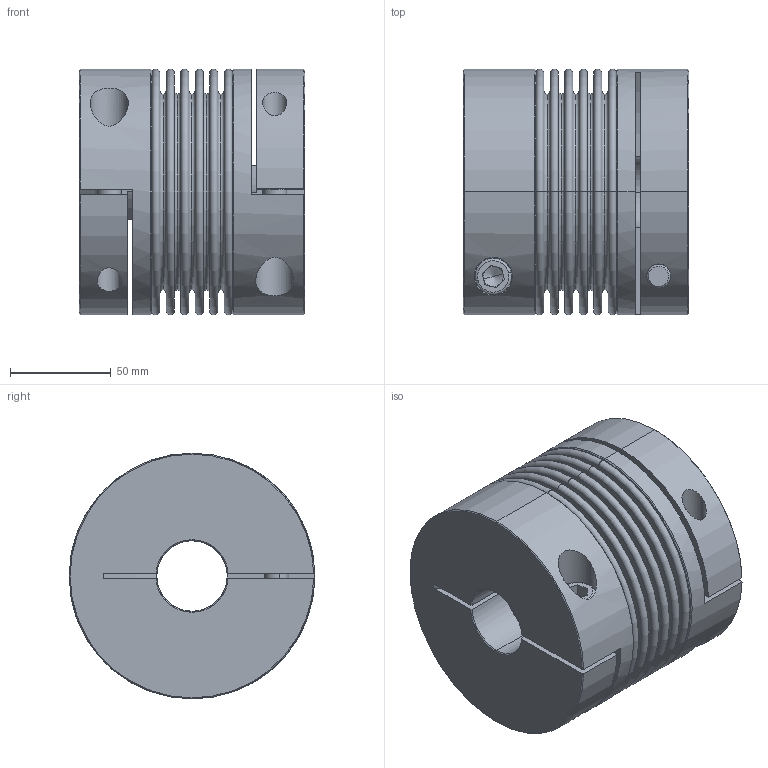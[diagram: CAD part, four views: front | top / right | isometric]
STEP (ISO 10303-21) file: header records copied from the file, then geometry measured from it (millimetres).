
FILE_DESCRIPTION (( 'STEP AP214' ), '1' );
FILE_NAME ('KB4C-500-111.STEP', '2011-01-19T18:14:05', ( '' ), ( 'KAPCAD' ), 'SwSTEP 2.0', 'SolidWorks 2002296', '' );
FILE_SCHEMA (( 'AUTOMOTIVE_DESIGN' ));
Length unit declared in the file: millimetre
Products named in the file (4): KB4C-500-111; KN500C_Standard; BL500_Standard; Socket Head Cap Screw_DIN_DIN 912 M12 x 50 --- 50N
Assembly tree (5 placements, depth 2):
  KB4C-500-111
    KN500C_Standard  x2
    Socket Head Cap Screw_DIN_DIN 912 M12 x 50 --- 50N  x2
    BL500_Standard
Bounding box: 112.2 x 122 x 122 mm (x, y, z)
Volume: 762868.3 mm3; surface area: 237011.1 mm2
Topology: 5 solids, 5 shells, 214 faces, 476 edges, 296 vertices
Faces by surface type: plane 74, torus 72, cylinder 44, cone 24
Entity records: 4657 total; most frequent: CARTESIAN_POINT 909, DIRECTION 902, ORIENTED_EDGE 668, AXIS2_PLACEMENT_3D 415, EDGE_CURVE 334, CIRCLE 251, VERTEX_POINT 210, EDGE_LOOP 190
